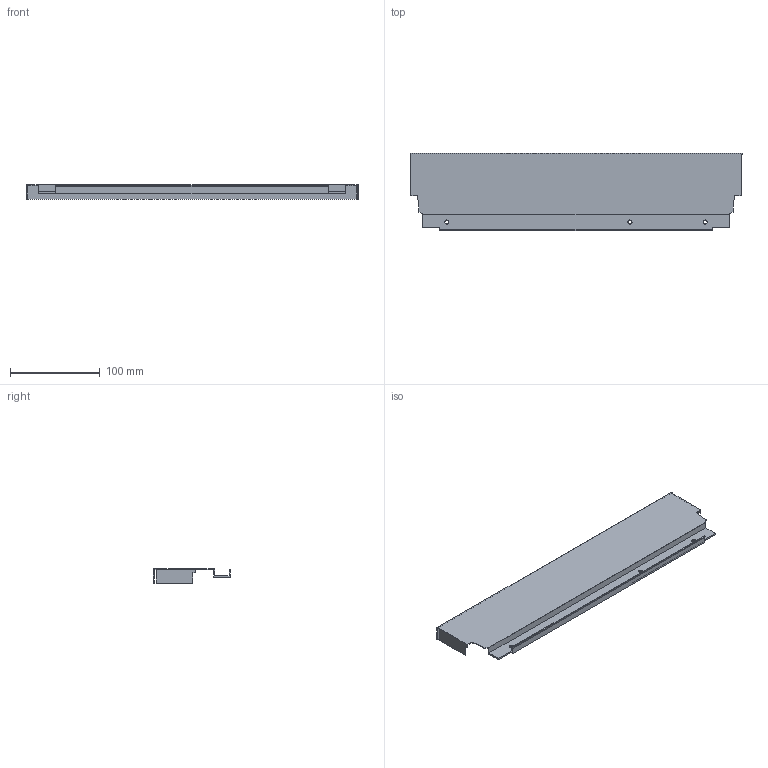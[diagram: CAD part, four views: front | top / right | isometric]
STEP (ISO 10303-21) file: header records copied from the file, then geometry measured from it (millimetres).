
FILE_DESCRIPTION (( 'STEP AP214' ), '1' );
FILE_NAME ('_DWD_XP Stahlrückwand_H86_KAB450_S16.step', '2010-07-08T12:09:54', ( 'grass' ), ( '' ), 'SwSTEP 2.0', 'SolidWorks 2010', '' );
FILE_SCHEMA (( 'AUTOMOTIVE_DESIGN' ));
Length unit declared in the file: millimetre
Products named in the file (1): _DWD_XP Stahlrückwand_H86_KAB450_S16
Bounding box: 369 x 85.79 x 16 mm (x, y, z)
Volume: 38976.5 mm3; surface area: 85389.5 mm2
Topology: 1 solids, 1 shells, 50 faces, 144 edges, 96 vertices
Faces by surface type: plane 44, cylinder 6
Entity records: 1666 total; most frequent: CARTESIAN_POINT 291, ORIENTED_EDGE 288, DIRECTION 258, EDGE_CURVE 144, LINE 132, VECTOR 132, VERTEX_POINT 96, AXIS2_PLACEMENT_3D 63
